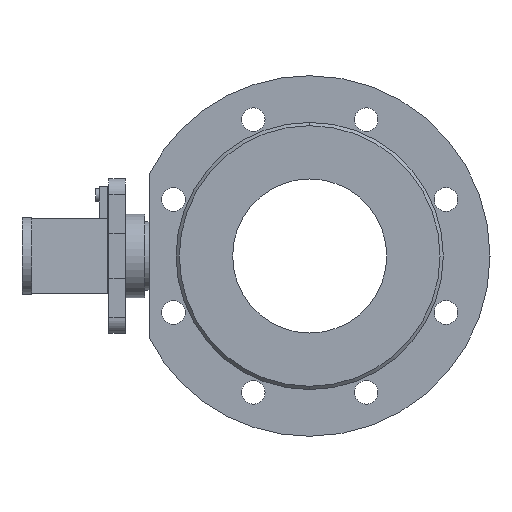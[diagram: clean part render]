
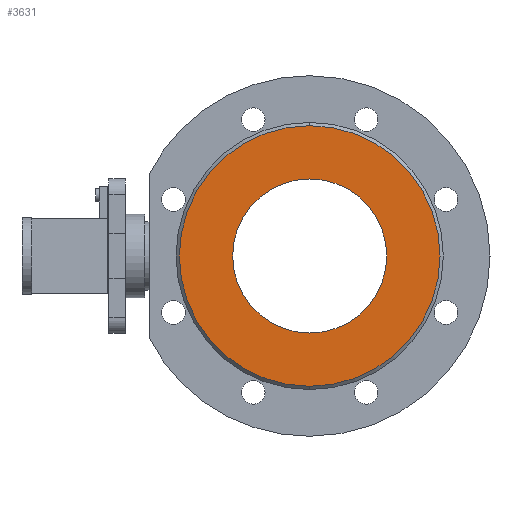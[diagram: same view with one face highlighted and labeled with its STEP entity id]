
A CAD part, left-side view. The second image highlights one B-rep face of the part: STEP entity #3631.
In plain terms, the highlighted planar face has unit normal (-1, 0, 0).
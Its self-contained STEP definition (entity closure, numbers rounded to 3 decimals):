
#104 = FACE_BOUND ( 'NONE', #1564, .T. ) ;
#146 = EDGE_LOOP ( 'NONE', ( #1947, #1439 ) ) ;
#364 = DIRECTION ( 'NONE',  ( 0., 0., -1. ) ) ;
#423 = CARTESIAN_POINT ( 'NONE',  ( -70., 0., 0. ) ) ;
#443 = DIRECTION ( 'NONE',  ( -1., 0., 0. ) ) ;
#487 = AXIS2_PLACEMENT_3D ( 'NONE', #1800, #2518, #364 ) ;
#593 = EDGE_CURVE ( 'NONE', #4449, #838, #2094, .T. ) ;
#599 = CARTESIAN_POINT ( 'NONE',  ( -70., 0., 0. ) ) ;
#672 = DIRECTION ( 'NONE',  ( -1., 0., 0. ) ) ;
#796 = DIRECTION ( 'NONE',  ( 0., 0., 1. ) ) ;
#813 = AXIS2_PLACEMENT_3D ( 'NONE', #2593, #443, #2941 ) ;
#838 = VERTEX_POINT ( 'NONE', #1637 ) ;
#892 = CIRCLE ( 'NONE', #4055, 47. ) ;
#951 = DIRECTION ( 'NONE',  ( 0., 0., 1. ) ) ;
#1022 = CARTESIAN_POINT ( 'NONE',  ( -70., 0., 47. ) ) ;
#1355 = CARTESIAN_POINT ( 'NONE',  ( -70., 0., -79.5 ) ) ;
#1428 = EDGE_CURVE ( 'NONE', #2235, #3548, #2283, .T. ) ;
#1439 = ORIENTED_EDGE ( 'NONE', *, *, #4551, .T. ) ;
#1481 = AXIS2_PLACEMENT_3D ( 'NONE', #599, #3086, #951 ) ;
#1564 = EDGE_LOOP ( 'NONE', ( #3588, #4113 ) ) ;
#1637 = CARTESIAN_POINT ( 'NONE',  ( -70., 0., -47. ) ) ;
#1800 = CARTESIAN_POINT ( 'NONE',  ( -70., 79.5, 0. ) ) ;
#1947 = ORIENTED_EDGE ( 'NONE', *, *, #1428, .T. ) ;
#2094 = CIRCLE ( 'NONE', #813, 47. ) ;
#2112 = CARTESIAN_POINT ( 'NONE',  ( -70., 0., 79.5 ) ) ;
#2235 = VERTEX_POINT ( 'NONE', #1355 ) ;
#2283 = CIRCLE ( 'NONE', #1481, 79.5 ) ;
#2518 = DIRECTION ( 'NONE',  ( 1., 0., 0. ) ) ;
#2593 = CARTESIAN_POINT ( 'NONE',  ( -70., 0., 0. ) ) ;
#2721 = CIRCLE ( 'NONE', #3321, 79.5 ) ;
#2803 = CARTESIAN_POINT ( 'NONE',  ( -70., 0., 0. ) ) ;
#2921 = DIRECTION ( 'NONE',  ( -1., 0., 0. ) ) ;
#2941 = DIRECTION ( 'NONE',  ( 0., 0., 1. ) ) ;
#3086 = DIRECTION ( 'NONE',  ( -1., 0., 0. ) ) ;
#3160 = DIRECTION ( 'NONE',  ( 0., 0., 1. ) ) ;
#3321 = AXIS2_PLACEMENT_3D ( 'NONE', #423, #2921, #796 ) ;
#3548 = VERTEX_POINT ( 'NONE', #2112 ) ;
#3554 = PLANE ( 'NONE',  #487 ) ;
#3588 = ORIENTED_EDGE ( 'NONE', *, *, #593, .F. ) ;
#3631 = ADVANCED_FACE ( 'NONE', ( #104, #3886 ), #3554, .F. ) ;
#3885 = EDGE_CURVE ( 'NONE', #838, #4449, #892, .T. ) ;
#3886 = FACE_OUTER_BOUND ( 'NONE', #146, .T. ) ;
#4055 = AXIS2_PLACEMENT_3D ( 'NONE', #2803, #672, #3160 ) ;
#4113 = ORIENTED_EDGE ( 'NONE', *, *, #3885, .F. ) ;
#4449 = VERTEX_POINT ( 'NONE', #1022 ) ;
#4551 = EDGE_CURVE ( 'NONE', #3548, #2235, #2721, .T. ) ;
